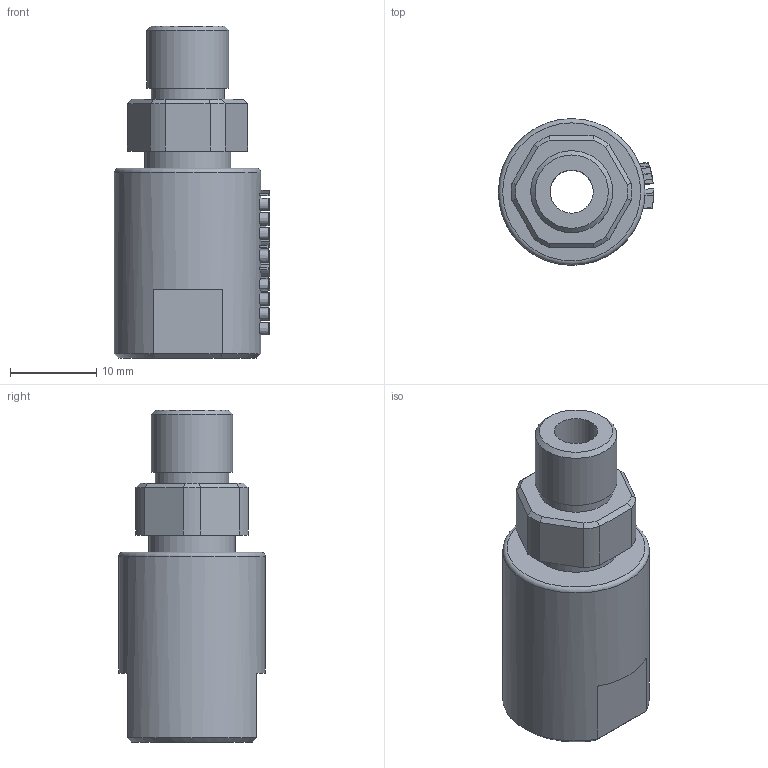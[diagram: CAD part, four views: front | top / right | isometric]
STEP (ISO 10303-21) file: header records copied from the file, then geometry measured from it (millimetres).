
FILE_DESCRIPTION(/* description */ (''),/* implementation_level */ '2;1');
FILE_NAME(/* name */ 'HY0101.stp',/* time_stamp */ '2024-07-03T14:43:53+08:00',/* author */ (''),/* organization */ (''),/* preprocessor_version */ 'ST-DEVELOPER v16.7',/* originating_system */ 'SIEMENS PLM Software NX 12.0',/* authorisation */ '');
FILE_SCHEMA (('AUTOMOTIVE_DESIGN { 1 0 10303 214 3 1 1 1 }'));
Length unit declared in the file: millimetre
Products named in the file (1): 8613389012830v34
Bounding box: 18 x 17 x 38.5 mm (x, y, z)
Volume: 5493.1 mm3; surface area: 3139.8 mm2
Topology: 1 solids, 1 shells, 357 faces, 917 edges, 605 vertices
Faces by surface type: extrusion 154, plane 142, bspline 27, cylinder 23, cone 10, torus 1
Full cylindrical faces by diameter (mm): 5 x1, 8.5 x2, 9.5 x1, 10 x1, 17 x1
Entity records: 16265 total; most frequent: CARTESIAN_POINT 8367, ORIENTED_EDGE 1796, DIRECTION 1120, EDGE_CURVE 898, VERTEX_POINT 604, VECTOR 556, B_SPLINE_CURVE_WITH_KNOTS 545, EDGE_LOOP 420
